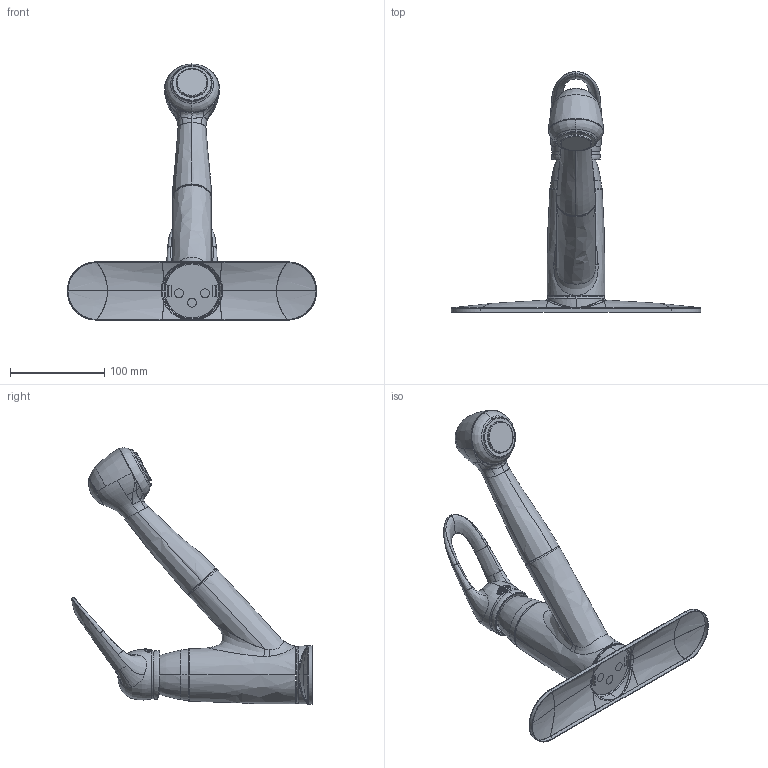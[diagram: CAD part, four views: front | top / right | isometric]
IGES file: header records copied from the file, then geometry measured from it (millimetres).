
Start section:  PTC IGES file: sku_7570.igs
Global section: file name: sku_7570.igs; native system: Pro/ENGINEER by Parametric Technology Corporation; preprocessor: 2006460; author: 9dutterb; organization: Unknown; date: 20071107.114718; units: inch
Bounding box: 264.31 x 254.83 x 271.42 mm (x, y, z)
Surface area: 126465.2 mm2 (no closed solid volume)
Topology: 0 solids, 0 shells, 284 faces, 1386 edges, 1378 vertices
Faces by surface type: bspline 204, revolution 74, extrusion 6
